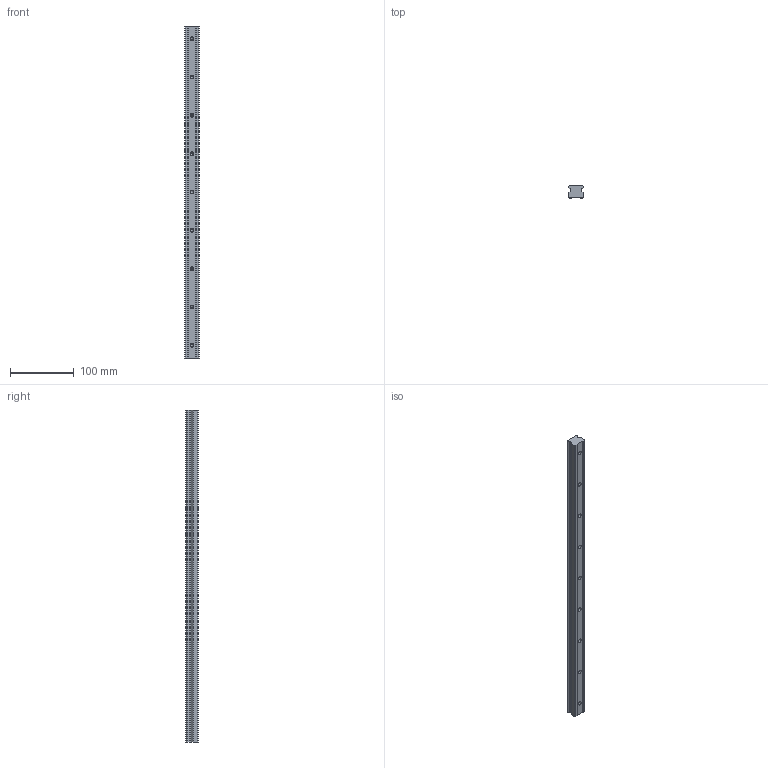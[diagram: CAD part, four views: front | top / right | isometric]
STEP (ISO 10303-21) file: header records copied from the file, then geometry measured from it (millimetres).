
FILE_DESCRIPTION (( 'STEP AP203' ), '1' );
FILE_NAME ('L1016.BRF25-0520.step', '2019-06-13T08:35:02', ( '' ), ( '' ), 'SwSTEP 2.0', 'SolidWorks 2017', '' );
FILE_SCHEMA (( 'CONFIG_CONTROL_DESIGN' ));
Length unit declared in the file: millimetre
Products named in the file (1): L1016.BRF25-0520
Bounding box: 23 x 19.2 x 520 mm (x, y, z)
Volume: 198426.2 mm3; surface area: 48568.9 mm2
Topology: 1 solids, 1 shells, 89 faces, 216 edges, 129 vertices
Faces by surface type: cylinder 40, plane 31, cone 18
Entity records: 2557 total; most frequent: DIRECTION 458, CARTESIAN_POINT 417, ORIENTED_EDGE 396, EDGE_CURVE 198, AXIS2_PLACEMENT_3D 170, VERTEX_POINT 129, VECTOR 118, LINE 118
